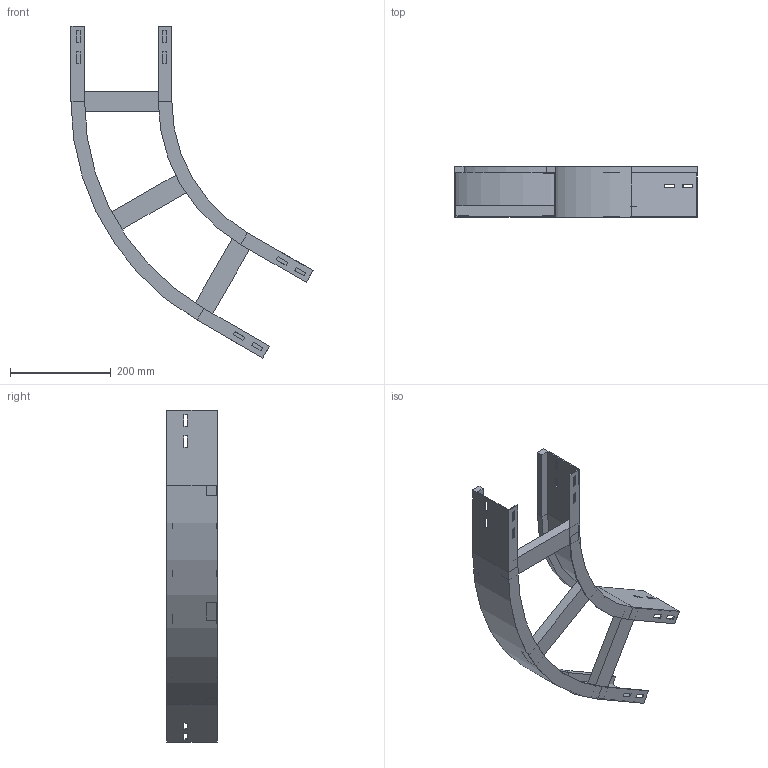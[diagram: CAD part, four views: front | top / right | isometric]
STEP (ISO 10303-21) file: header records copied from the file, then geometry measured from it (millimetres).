
FILE_DESCRIPTION (( 'STEP AP214' ), '1' );
FILE_NAME ('A2_13B3D200.step', '2025-02-21T15:17:37', ( '' ), ( '' ), 'SwSTEP 2.0', 'SolidWorks 2023', '' );
FILE_SCHEMA (( 'AUTOMOTIVE_DESIGN' ));
Length unit declared in the file: millimetre
Products named in the file (4): A2_13B3D200; A2_LONGH.ESTERNO 60°_H100_R300+200; TRAVERSINO_200; A2_LONGH.INTERNO 60°_H100_R300
Assembly tree (5 placements, depth 2):
  A2_13B3D200
    A2_LONGH.INTERNO 60°_H100_R300
    A2_LONGH.ESTERNO 60°_H100_R300+200
    TRAVERSINO_200  x3
Bounding box: 479.9 x 100 x 658.01 mm (x, y, z)
Volume: 1106841.1 mm3; surface area: 485902.8 mm2
Topology: 5 solids, 5 shells, 134 faces, 340 edges, 216 vertices
Faces by surface type: plane 126, cylinder 8
Entity records: 3821 total; most frequent: CARTESIAN_POINT 646, ORIENTED_EDGE 632, DIRECTION 592, EDGE_CURVE 316, LINE 300, VECTOR 300, VERTEX_POINT 200, EDGE_LOOP 154
